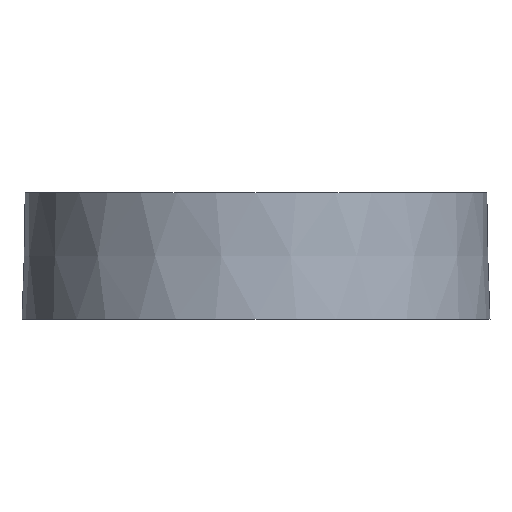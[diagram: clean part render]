
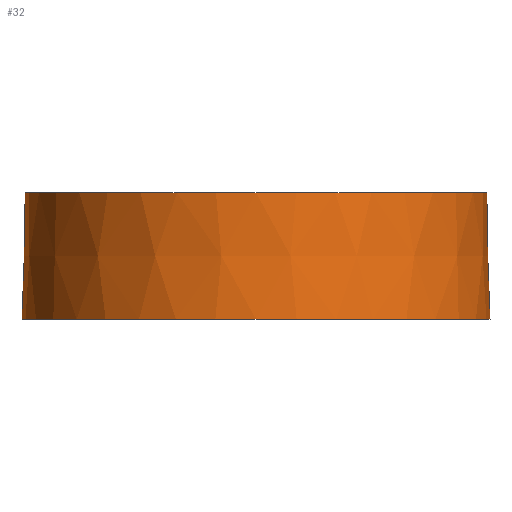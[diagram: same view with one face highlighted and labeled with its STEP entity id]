
A CAD part, front view. The second image highlights one B-rep face of the part: STEP entity #32.
In plain terms, the highlighted conical face has half-angle 1.43 degrees and reference radius 73.8 mm.
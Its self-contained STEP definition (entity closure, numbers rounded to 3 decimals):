
#32 = ADVANCED_FACE( '', ( #61, #62 ), #63, .T. );
#61 = FACE_BOUND( '', #84, .T. );
#62 = FACE_OUTER_BOUND( '', #85, .T. );
#63 = CONICAL_SURFACE( '', #86, 73.8, 0.025 );
#84 = EDGE_LOOP( '', ( #105 ) );
#85 = EDGE_LOOP( '', ( #106 ) );
#86 = AXIS2_PLACEMENT_3D( '', #107, #108, #109 );
#105 = ORIENTED_EDGE( '', *, *, #118, .T. );
#106 = ORIENTED_EDGE( '', *, *, #120, .F. );
#107 = CARTESIAN_POINT( '', ( 0., 0., -40. ) );
#108 = DIRECTION( '', ( 0., 0., -1. ) );
#109 = DIRECTION( '', ( 0., 1., 0. ) );
#118 = EDGE_CURVE( '', #127, #127, #128, .T. );
#120 = EDGE_CURVE( '', #130, #130, #131, .T. );
#127 = VERTEX_POINT( '', #139 );
#128 = CIRCLE( '', #140, 72.801 );
#130 = VERTEX_POINT( '', #142 );
#131 = CIRCLE( '', #143, 73.8 );
#139 = CARTESIAN_POINT( '', ( 0., 72.801, 0. ) );
#140 = AXIS2_PLACEMENT_3D( '', #151, #152, #153 );
#142 = CARTESIAN_POINT( '', ( 0., 73.8, -40. ) );
#143 = AXIS2_PLACEMENT_3D( '', #154, #155, #156 );
#151 = CARTESIAN_POINT( '', ( 0., 0., 0. ) );
#152 = DIRECTION( '', ( 0., 0., -1. ) );
#153 = DIRECTION( '', ( 0., 1., 0. ) );
#154 = CARTESIAN_POINT( '', ( 0., 0., -40. ) );
#155 = DIRECTION( '', ( 0., 0., -1. ) );
#156 = DIRECTION( '', ( 0., 1., 0. ) );
